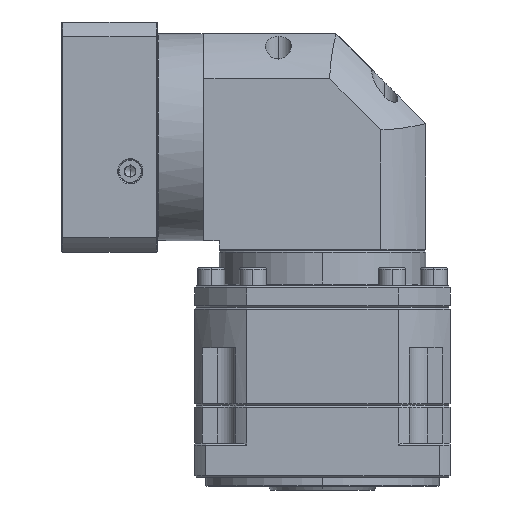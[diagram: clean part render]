
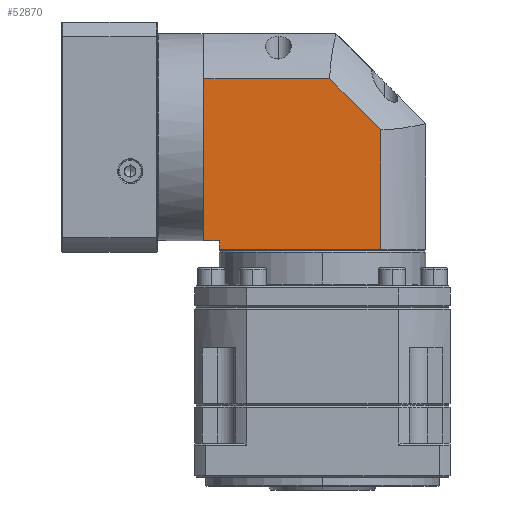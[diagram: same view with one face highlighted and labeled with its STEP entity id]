
A CAD part, left-side view. The second image highlights one B-rep face of the part: STEP entity #52870.
In plain terms, the highlighted planar face has unit normal (-1, 0, 0).
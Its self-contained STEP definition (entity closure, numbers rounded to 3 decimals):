
#2045 = AXIS2_PLACEMENT_3D ( 'NONE', #78674, #67790, #123395 ) ;
#6235 = LINE ( 'NONE', #115467, #118341 ) ;
#6929 = CARTESIAN_POINT ( 'NONE',  ( -189.697, 34.254, -44.544 ) ) ;
#7333 = EDGE_CURVE ( 'NONE', #73335, #46752, #113708, .T. ) ;
#9397 = VECTOR ( 'NONE', #98157, 1000. ) ;
#9470 = LINE ( 'NONE', #24100, #31470 ) ;
#10209 = CARTESIAN_POINT ( 'NONE',  ( -189.697, 149.254, -44.544 ) ) ;
#15495 = LINE ( 'NONE', #6929, #127582 ) ;
#19705 = CARTESIAN_POINT ( 'NONE',  ( -189.697, 59.354, -51.044 ) ) ;
#24100 = CARTESIAN_POINT ( 'NONE',  ( -189.697, 157.654, -51.044 ) ) ;
#31470 = VECTOR ( 'NONE', #120510, 1000. ) ;
#37715 = DIRECTION ( 'NONE',  ( 0., 0., -1. ) ) ;
#39032 = DIRECTION ( 'NONE',  ( 0., -1., 0. ) ) ;
#39169 = DIRECTION ( 'NONE',  ( 0., 1., 0. ) ) ;
#41264 = EDGE_CURVE ( 'NONE', #98233, #66731, #9470, .T. ) ;
#41957 = VECTOR ( 'NONE', #37715, 1000. ) ;
#42264 = FACE_OUTER_BOUND ( 'NONE', #49848, .T. ) ;
#44112 = VECTOR ( 'NONE', #131254, 1000. ) ;
#46752 = VERTEX_POINT ( 'NONE', #88885 ) ;
#46893 = ORIENTED_EDGE ( 'NONE', *, *, #69463, .T. ) ;
#48304 = VERTEX_POINT ( 'NONE', #132671 ) ;
#49848 = EDGE_LOOP ( 'NONE', ( #54673, #120090, #101085, #88648, #46893, #125623, #96195 ) ) ;
#50366 = EDGE_CURVE ( 'NONE', #66731, #111281, #97555, .T. ) ;
#51081 = DIRECTION ( 'NONE',  ( 0., -0.707, -0.707 ) ) ;
#52870 = ADVANCED_FACE ( 'NONE', ( #42264 ), #112414, .F. ) ;
#53344 = CARTESIAN_POINT ( 'NONE',  ( -189.697, 157.654, 50.356 ) ) ;
#54541 = CARTESIAN_POINT ( 'NONE',  ( -189.697, 34.254, 50.356 ) ) ;
#54673 = ORIENTED_EDGE ( 'NONE', *, *, #7333, .F. ) ;
#58945 = VERTEX_POINT ( 'NONE', #10209 ) ;
#60991 = CARTESIAN_POINT ( 'NONE',  ( -189.697, 149.254, 75.456 ) ) ;
#65948 = CARTESIAN_POINT ( 'NONE',  ( -189.697, 157.654, -39.544 ) ) ;
#66731 = VERTEX_POINT ( 'NONE', #53344 ) ;
#67572 = EDGE_CURVE ( 'NONE', #111281, #73335, #70833, .T. ) ;
#67790 = DIRECTION ( 'NONE',  ( 1., 0., 0. ) ) ;
#69463 = EDGE_CURVE ( 'NONE', #98233, #48304, #6235, .T. ) ;
#70833 = LINE ( 'NONE', #103299, #115059 ) ;
#72481 = EDGE_CURVE ( 'NONE', #48304, #58945, #132028, .T. ) ;
#73335 = VERTEX_POINT ( 'NONE', #123456 ) ;
#78674 = CARTESIAN_POINT ( 'NONE',  ( -189.697, 34.254, -51.044 ) ) ;
#88648 = ORIENTED_EDGE ( 'NONE', *, *, #41264, .F. ) ;
#88885 = CARTESIAN_POINT ( 'NONE',  ( -189.697, 59.354, -44.544 ) ) ;
#96195 = ORIENTED_EDGE ( 'NONE', *, *, #134349, .F. ) ;
#97555 = LINE ( 'NONE', #54541, #9397 ) ;
#98157 = DIRECTION ( 'NONE',  ( 0., -1., 0. ) ) ;
#98233 = VERTEX_POINT ( 'NONE', #65948 ) ;
#98539 = CARTESIAN_POINT ( 'NONE',  ( -189.697, 87.692, 50.356 ) ) ;
#101085 = ORIENTED_EDGE ( 'NONE', *, *, #50366, .F. ) ;
#103299 = CARTESIAN_POINT ( 'NONE',  ( -189.697, 87.692, 50.356 ) ) ;
#111281 = VERTEX_POINT ( 'NONE', #98539 ) ;
#112414 = PLANE ( 'NONE',  #2045 ) ;
#113708 = LINE ( 'NONE', #19705, #44112 ) ;
#115059 = VECTOR ( 'NONE', #51081, 1000. ) ;
#115467 = CARTESIAN_POINT ( 'NONE',  ( -189.697, 149.254, -39.544 ) ) ;
#118341 = VECTOR ( 'NONE', #39032, 1000. ) ;
#120090 = ORIENTED_EDGE ( 'NONE', *, *, #67572, .F. ) ;
#120510 = DIRECTION ( 'NONE',  ( 0., 0., 1. ) ) ;
#123395 = DIRECTION ( 'NONE',  ( 0., -1., 0. ) ) ;
#123456 = CARTESIAN_POINT ( 'NONE',  ( -189.697, 59.354, 22.018 ) ) ;
#125623 = ORIENTED_EDGE ( 'NONE', *, *, #72481, .T. ) ;
#127582 = VECTOR ( 'NONE', #39169, 1000. ) ;
#131254 = DIRECTION ( 'NONE',  ( 0., 0., -1. ) ) ;
#132028 = LINE ( 'NONE', #60991, #41957 ) ;
#132671 = CARTESIAN_POINT ( 'NONE',  ( -189.697, 149.254, -39.544 ) ) ;
#134349 = EDGE_CURVE ( 'NONE', #46752, #58945, #15495, .T. ) ;
